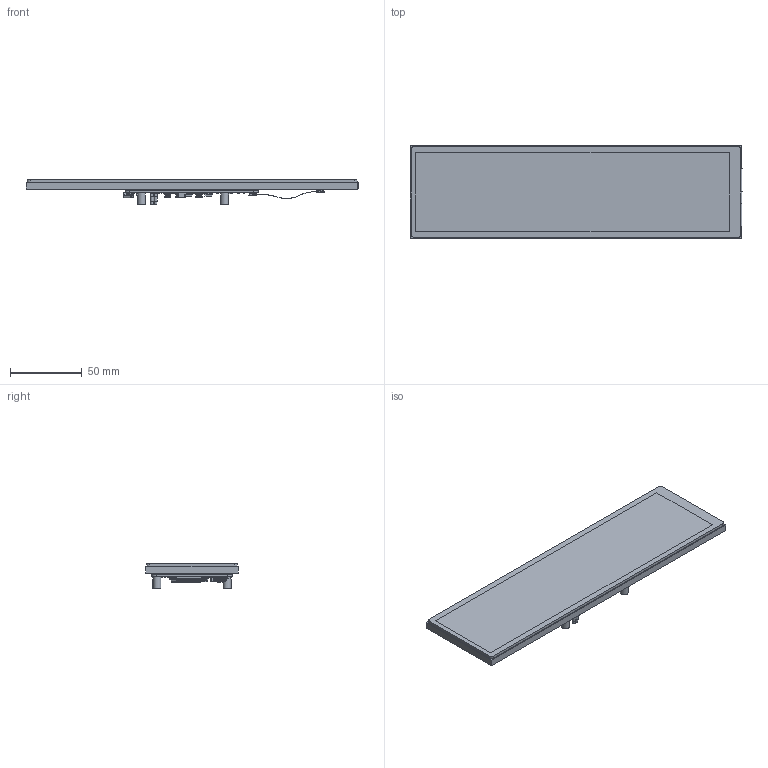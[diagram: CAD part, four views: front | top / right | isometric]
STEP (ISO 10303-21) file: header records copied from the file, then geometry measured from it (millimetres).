
FILE_DESCRIPTION(/* description */ (''),/* implementation_level */ '2;1');
FILE_NAME(/* name */ 'FIT0941',/* time_stamp */ '2024-03-08T15:57:46+08:00',/* author */ (''),/* organization */ (''),/* preprocessor_version */ 'ST-DEVELOPER v16.5',/* originating_system */ '',/* authorisation */ '');
FILE_SCHEMA (('AUTOMOTIVE_DESIGN'));
Products named in the file (1): Document
Bounding box: 231.82 x 64.3 x 17.3 mm (x, y, z)
Volume: 114202.4 mm3; surface area: 99095.7 mm2
Topology: 472 solids, 475 shells, 9991 faces, 24815 edges, 15115 vertices
Faces by surface type: plane 6367, bspline 3624
Entity records: 396595 total; most frequent: CARTESIAN_POINT 234504, ORIENTED_EDGE 48319, EDGE_CURVE 24171, B_SPLINE_CURVE_WITH_KNOTS 19269, VERTEX_POINT 15116, EDGE_LOOP 10265, ADVANCED_FACE 9991, FACE_OUTER_BOUND 9991
